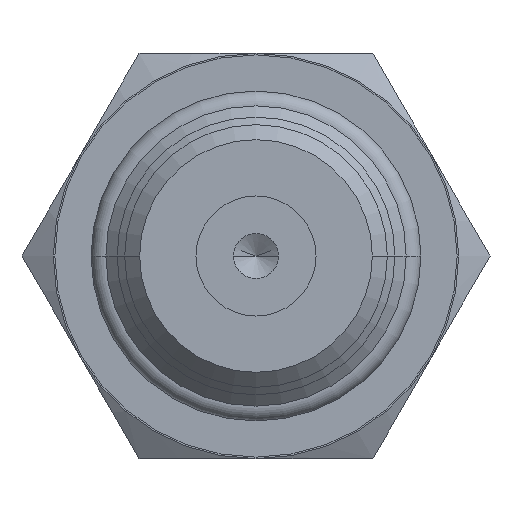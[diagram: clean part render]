
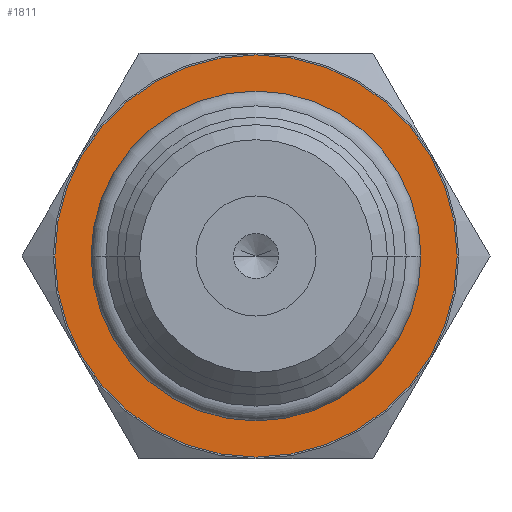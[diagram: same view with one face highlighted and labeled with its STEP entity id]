
A CAD part, left-side view. The second image highlights one B-rep face of the part: STEP entity #1811.
In plain terms, the highlighted planar face has unit normal (-1, 0, 0) as drawn and (0, -1, 0) by its records, which use the part's own axes.
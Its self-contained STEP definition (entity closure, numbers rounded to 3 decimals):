
#1712=CARTESIAN_POINT('',(0.,-0.762,0.));
#1713=DIRECTION('',(0.,1.,0.));
#1714=DIRECTION('',(1.,0.,0.));
#1715=AXIS2_PLACEMENT_3D('',#1712,#1713,#1714);
#1717=CARTESIAN_POINT('',(0.,-0.762,0.));
#1718=DIRECTION('',(0.,-1.,0.));
#1719=DIRECTION('',(1.,0.,0.));
#1720=AXIS2_PLACEMENT_3D('',#1717,#1718,#1719);
#1722=CARTESIAN_POINT('',(0.,-0.762,0.));
#1723=DIRECTION('',(0.,-1.,0.));
#1724=DIRECTION('',(1.,0.,0.));
#1725=AXIS2_PLACEMENT_3D('',#1722,#1723,#1724);
#1735=CARTESIAN_POINT('',(0.,-0.762,0.));
#1736=DIRECTION('',(0.,1.,0.));
#1737=DIRECTION('',(1.,0.,0.));
#1738=AXIS2_PLACEMENT_3D('',#1735,#1736,#1737);
#1751=CARTESIAN_POINT('',(10.986,-0.762,0.));
#1753=VERTEX_POINT('',#1751);
#1754=CARTESIAN_POINT('',(13.399,-0.762,0.));
#1756=VERTEX_POINT('',#1754);
#1759=CARTESIAN_POINT('',(-10.986,-0.762,0.));
#1761=VERTEX_POINT('',#1759);
#1762=CARTESIAN_POINT('',(-13.399,-0.762,0.));
#1764=VERTEX_POINT('',#1762);
#1796=CARTESIAN_POINT('',(0.,-0.762,0.));
#1797=DIRECTION('',(0.,-1.,0.));
#1798=DIRECTION('',(-1.,0.,0.));
#1799=AXIS2_PLACEMENT_3D('',#1796,#1797,#1798);
#1800=PLANE('',#1799);
#1802=ORIENTED_EDGE('',*,*,#1801,.F.);
#1804=ORIENTED_EDGE('',*,*,#1803,.T.);
#1805=EDGE_LOOP('',(#1802,#1804));
#1806=FACE_OUTER_BOUND('',#1805,.F.);
#1807=ORIENTED_EDGE('',*,*,#1788,.F.);
#1808=ORIENTED_EDGE('',*,*,#1777,.T.);
#1809=EDGE_LOOP('',(#1807,#1808));
#1810=FACE_BOUND('',#1809,.F.);
#1811=ADVANCED_FACE('',(#1806,#1810),#1800,.T.);
#1716=CIRCLE('',#1715,10.986);
#1721=CIRCLE('',#1720,10.986);
#1726=CIRCLE('',#1725,13.399);
#1739=CIRCLE('',#1738,13.399);
#1777=EDGE_CURVE('',#1753,#1761,#1721,.T.);
#1788=EDGE_CURVE('',#1753,#1761,#1716,.T.);
#1801=EDGE_CURVE('',#1756,#1764,#1726,.T.);
#1803=EDGE_CURVE('',#1756,#1764,#1739,.T.);
